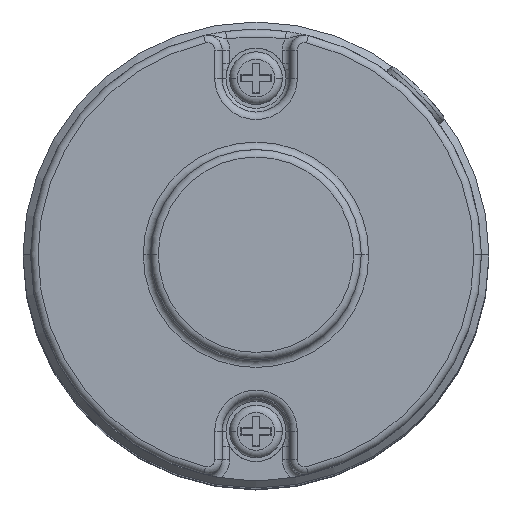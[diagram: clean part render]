
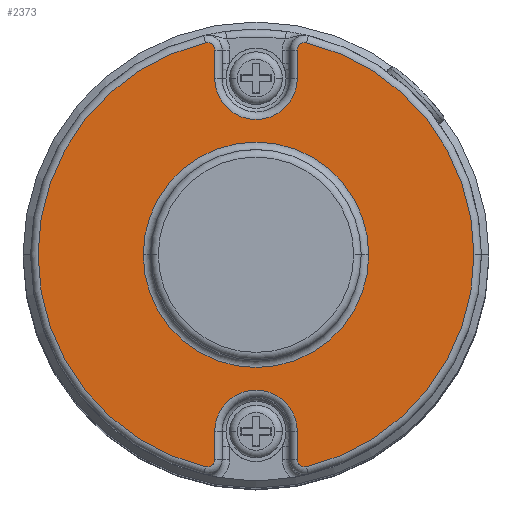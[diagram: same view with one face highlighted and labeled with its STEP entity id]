
A CAD part, top view. The second image highlights one B-rep face of the part: STEP entity #2373.
In plain terms, the highlighted planar face has unit normal (0, 0, 1).
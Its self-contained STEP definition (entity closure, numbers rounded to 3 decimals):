
#13 = DIRECTION ( 'NONE',  ( 1., 0., 0. ) ) ;
#125 = VERTEX_POINT ( 'NONE', #5752 ) ;
#144 = CIRCLE ( 'NONE', #2166, 29. ) ;
#209 = VERTEX_POINT ( 'NONE', #1186 ) ;
#392 = LINE ( 'NONE', #6224, #3366 ) ;
#625 = VERTEX_POINT ( 'NONE', #6537 ) ;
#635 = DIRECTION ( 'NONE',  ( 0., 0., 1. ) ) ;
#641 = CARTESIAN_POINT ( 'NONE',  ( -5.5, -23.5, 20.5 ) ) ;
#681 = CARTESIAN_POINT ( 'NONE',  ( 0., 0., 20.5 ) ) ;
#707 = DIRECTION ( 'NONE',  ( 1., 0., 0. ) ) ;
#708 = CIRCLE ( 'NONE', #5434, 5.5 ) ;
#768 = DIRECTION ( 'NONE',  ( 0., 0., 1. ) ) ;
#882 = EDGE_CURVE ( 'NONE', #3674, #209, #2541, .T. ) ;
#927 = AXIS2_PLACEMENT_3D ( 'NONE', #681, #5836, #2588 ) ;
#1057 = CARTESIAN_POINT ( 'NONE',  ( 0., 0., 20.5 ) ) ;
#1113 = CIRCLE ( 'NONE', #1246, 5.5 ) ;
#1182 = CARTESIAN_POINT ( 'NONE',  ( -6.5, 27.235, 20.5 ) ) ;
#1186 = CARTESIAN_POINT ( 'NONE',  ( 6.732, -28.208, 20.5 ) ) ;
#1194 = FACE_OUTER_BOUND ( 'NONE', #1451, .T. ) ;
#1246 = AXIS2_PLACEMENT_3D ( 'NONE', #2804, #4579, #2172 ) ;
#1287 = EDGE_LOOP ( 'NONE', ( #5881, #2032 ) ) ;
#1291 = CARTESIAN_POINT ( 'NONE',  ( -5.5, 27.235, 20.5 ) ) ;
#1299 = CARTESIAN_POINT ( 'NONE',  ( -5.5, 27.235, 20.5 ) ) ;
#1451 = EDGE_LOOP ( 'NONE', ( #8083, #2626, #7675, #3804, #5369, #3890, #6405, #5164, #6023, #2758, #6428, #6729, #7119 ) ) ;
#1521 = CARTESIAN_POINT ( 'NONE',  ( 0., -23.5, 20.5 ) ) ;
#1639 = DIRECTION ( 'NONE',  ( 0., 0., 1. ) ) ;
#1867 = CARTESIAN_POINT ( 'NONE',  ( 0., 0., 20.5 ) ) ;
#1877 = VERTEX_POINT ( 'NONE', #3988 ) ;
#1944 = VECTOR ( 'NONE', #7062, 1000. ) ;
#1990 = DIRECTION ( 'NONE',  ( 0., -1., 0. ) ) ;
#2009 = VERTEX_POINT ( 'NONE', #3522 ) ;
#2016 = CARTESIAN_POINT ( 'NONE',  ( -6.732, 28.208, 20.5 ) ) ;
#2032 = ORIENTED_EDGE ( 'NONE', *, *, #5941, .T. ) ;
#2166 = AXIS2_PLACEMENT_3D ( 'NONE', #6123, #2921, #6683 ) ;
#2167 = EDGE_CURVE ( 'NONE', #6887, #2346, #392, .T. ) ;
#2172 = DIRECTION ( 'NONE',  ( 1., 0., 0. ) ) ;
#2194 = VERTEX_POINT ( 'NONE', #7443 ) ;
#2208 = DIRECTION ( 'NONE',  ( 1., 0., 0. ) ) ;
#2248 = CARTESIAN_POINT ( 'NONE',  ( 5.5, 23.5, 20.5 ) ) ;
#2346 = VERTEX_POINT ( 'NONE', #641 ) ;
#2368 = CARTESIAN_POINT ( 'NONE',  ( 5.5, -27.235, 20.5 ) ) ;
#2373 = ADVANCED_FACE ( 'NONE', ( #1194, #6358 ), #3146, .T. ) ;
#2377 = EDGE_CURVE ( 'NONE', #2556, #3674, #7108, .T. ) ;
#2541 = CIRCLE ( 'NONE', #6581, 1. ) ;
#2556 = VERTEX_POINT ( 'NONE', #8068 ) ;
#2588 = DIRECTION ( 'NONE',  ( 1., 0., 0. ) ) ;
#2626 = ORIENTED_EDGE ( 'NONE', *, *, #882, .T. ) ;
#2633 = VECTOR ( 'NONE', #7367, 1000. ) ;
#2634 = DIRECTION ( 'NONE',  ( 1., 0., 0. ) ) ;
#2661 = CARTESIAN_POINT ( 'NONE',  ( -6.732, -28.208, 20.5 ) ) ;
#2664 = CIRCLE ( 'NONE', #7380, 1. ) ;
#2758 = ORIENTED_EDGE ( 'NONE', *, *, #6627, .T. ) ;
#2804 = CARTESIAN_POINT ( 'NONE',  ( 0., 23.5, 20.5 ) ) ;
#2921 = DIRECTION ( 'NONE',  ( 0., 0., 1. ) ) ;
#3118 = CIRCLE ( 'NONE', #4048, 29. ) ;
#3146 = PLANE ( 'NONE',  #927 ) ;
#3214 = DIRECTION ( 'NONE',  ( 1., 0., 0. ) ) ;
#3238 = EDGE_CURVE ( 'NONE', #7628, #625, #1113, .T. ) ;
#3270 = DIRECTION ( 'NONE',  ( 0., 0., -1. ) ) ;
#3366 = VECTOR ( 'NONE', #8079, 1000. ) ;
#3479 = CARTESIAN_POINT ( 'NONE',  ( 6.5, -27.235, 20.5 ) ) ;
#3522 = CARTESIAN_POINT ( 'NONE',  ( 15., 0., 20.5 ) ) ;
#3572 = EDGE_CURVE ( 'NONE', #2346, #2556, #708, .T. ) ;
#3674 = VERTEX_POINT ( 'NONE', #2368 ) ;
#3804 = ORIENTED_EDGE ( 'NONE', *, *, #7615, .T. ) ;
#3890 = ORIENTED_EDGE ( 'NONE', *, *, #6427, .T. ) ;
#3896 = CARTESIAN_POINT ( 'NONE',  ( 5.5, -27.235, 20.5 ) ) ;
#3948 = CIRCLE ( 'NONE', #7743, 1. ) ;
#3964 = CARTESIAN_POINT ( 'NONE',  ( 0., 0., 20.5 ) ) ;
#3988 = CARTESIAN_POINT ( 'NONE',  ( -15., 0., 20.5 ) ) ;
#4048 = AXIS2_PLACEMENT_3D ( 'NONE', #1057, #6732, #4240 ) ;
#4080 = CARTESIAN_POINT ( 'NONE',  ( 5.5, 23.5, 20.5 ) ) ;
#4240 = DIRECTION ( 'NONE',  ( 1., 0., 0. ) ) ;
#4393 = AXIS2_PLACEMENT_3D ( 'NONE', #3964, #7213, #707 ) ;
#4455 = DIRECTION ( 'NONE',  ( 1., 0., 0. ) ) ;
#4498 = EDGE_CURVE ( 'NONE', #5730, #4589, #3948, .T. ) ;
#4515 = CIRCLE ( 'NONE', #7077, 1. ) ;
#4579 = DIRECTION ( 'NONE',  ( 0., 0., -1. ) ) ;
#4583 = EDGE_CURVE ( 'NONE', #7820, #6887, #4515, .T. ) ;
#4589 = VERTEX_POINT ( 'NONE', #2016 ) ;
#4632 = EDGE_CURVE ( 'NONE', #625, #5730, #7800, .T. ) ;
#4706 = LINE ( 'NONE', #4080, #2633 ) ;
#5027 = DIRECTION ( 'NONE',  ( 1., 0., 0. ) ) ;
#5106 = AXIS2_PLACEMENT_3D ( 'NONE', #1867, #635, #4455 ) ;
#5164 = ORIENTED_EDGE ( 'NONE', *, *, #4632, .T. ) ;
#5369 = ORIENTED_EDGE ( 'NONE', *, *, #6856, .T. ) ;
#5434 = AXIS2_PLACEMENT_3D ( 'NONE', #1521, #3270, #2634 ) ;
#5614 = EDGE_CURVE ( 'NONE', #2009, #1877, #7472, .T. ) ;
#5730 = VERTEX_POINT ( 'NONE', #1291 ) ;
#5752 = CARTESIAN_POINT ( 'NONE',  ( 5.5, 27.235, 20.5 ) ) ;
#5836 = DIRECTION ( 'NONE',  ( 0., 0., 1. ) ) ;
#5881 = ORIENTED_EDGE ( 'NONE', *, *, #5614, .T. ) ;
#5941 = EDGE_CURVE ( 'NONE', #1877, #2009, #6538, .T. ) ;
#6023 = ORIENTED_EDGE ( 'NONE', *, *, #4498, .T. ) ;
#6123 = CARTESIAN_POINT ( 'NONE',  ( 0., 0., 20.5 ) ) ;
#6224 = CARTESIAN_POINT ( 'NONE',  ( -5.5, -23.5, 20.5 ) ) ;
#6345 = CARTESIAN_POINT ( 'NONE',  ( -6.5, -27.235, 20.5 ) ) ;
#6358 = FACE_BOUND ( 'NONE', #1287, .T. ) ;
#6405 = ORIENTED_EDGE ( 'NONE', *, *, #3238, .T. ) ;
#6427 = EDGE_CURVE ( 'NONE', #125, #7628, #4706, .T. ) ;
#6428 = ORIENTED_EDGE ( 'NONE', *, *, #4583, .T. ) ;
#6463 = DIRECTION ( 'NONE',  ( 0., 0., 1. ) ) ;
#6508 = CARTESIAN_POINT ( 'NONE',  ( -5.5, -27.235, 20.5 ) ) ;
#6537 = CARTESIAN_POINT ( 'NONE',  ( -5.5, 23.5, 20.5 ) ) ;
#6538 = CIRCLE ( 'NONE', #4393, 15. ) ;
#6581 = AXIS2_PLACEMENT_3D ( 'NONE', #3479, #768, #2208 ) ;
#6593 = CIRCLE ( 'NONE', #5106, 29. ) ;
#6627 = EDGE_CURVE ( 'NONE', #4589, #7820, #6593, .T. ) ;
#6683 = DIRECTION ( 'NONE',  ( 1., 0., 0. ) ) ;
#6729 = ORIENTED_EDGE ( 'NONE', *, *, #2167, .T. ) ;
#6732 = DIRECTION ( 'NONE',  ( 0., 0., 1. ) ) ;
#6856 = EDGE_CURVE ( 'NONE', #2194, #125, #2664, .T. ) ;
#6880 = VECTOR ( 'NONE', #1990, 1000. ) ;
#6887 = VERTEX_POINT ( 'NONE', #6508 ) ;
#7062 = DIRECTION ( 'NONE',  ( 0., 1., 0. ) ) ;
#7077 = AXIS2_PLACEMENT_3D ( 'NONE', #6345, #6463, #3214 ) ;
#7108 = LINE ( 'NONE', #3896, #6880 ) ;
#7119 = ORIENTED_EDGE ( 'NONE', *, *, #3572, .T. ) ;
#7213 = DIRECTION ( 'NONE',  ( 0., 0., -1. ) ) ;
#7220 = DIRECTION ( 'NONE',  ( 0., 0., 1. ) ) ;
#7367 = DIRECTION ( 'NONE',  ( 0., -1., 0. ) ) ;
#7380 = AXIS2_PLACEMENT_3D ( 'NONE', #7844, #7220, #13 ) ;
#7423 = CARTESIAN_POINT ( 'NONE',  ( 0., 0., 20.5 ) ) ;
#7443 = CARTESIAN_POINT ( 'NONE',  ( 6.732, 28.208, 20.5 ) ) ;
#7472 = CIRCLE ( 'NONE', #8012, 15. ) ;
#7489 = CARTESIAN_POINT ( 'NONE',  ( 29., 0., 20.5 ) ) ;
#7597 = VERTEX_POINT ( 'NONE', #7489 ) ;
#7599 = DIRECTION ( 'NONE',  ( 1., 0., 0. ) ) ;
#7615 = EDGE_CURVE ( 'NONE', #7597, #2194, #3118, .T. ) ;
#7628 = VERTEX_POINT ( 'NONE', #2248 ) ;
#7675 = ORIENTED_EDGE ( 'NONE', *, *, #7955, .T. ) ;
#7743 = AXIS2_PLACEMENT_3D ( 'NONE', #1182, #1639, #5027 ) ;
#7800 = LINE ( 'NONE', #1299, #1944 ) ;
#7820 = VERTEX_POINT ( 'NONE', #2661 ) ;
#7844 = CARTESIAN_POINT ( 'NONE',  ( 6.5, 27.235, 20.5 ) ) ;
#7955 = EDGE_CURVE ( 'NONE', #209, #7597, #144, .T. ) ;
#8012 = AXIS2_PLACEMENT_3D ( 'NONE', #7423, #8103, #7599 ) ;
#8068 = CARTESIAN_POINT ( 'NONE',  ( 5.5, -23.5, 20.5 ) ) ;
#8079 = DIRECTION ( 'NONE',  ( 0., 1., 0. ) ) ;
#8083 = ORIENTED_EDGE ( 'NONE', *, *, #2377, .T. ) ;
#8103 = DIRECTION ( 'NONE',  ( 0., 0., -1. ) ) ;
